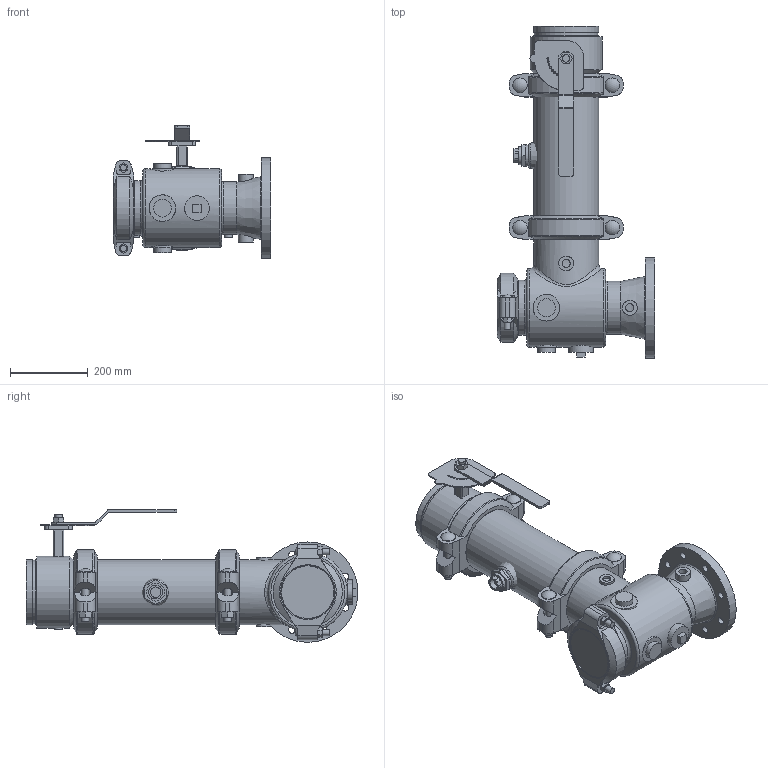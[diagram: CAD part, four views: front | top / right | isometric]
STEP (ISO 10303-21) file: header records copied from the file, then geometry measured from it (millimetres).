
FILE_DESCRIPTION(/* description */ ('VIC SVI PUMP DROP HORZ S/391 (OGSxFLG)','CAx-IF Rec.Pracs.---Representation and Presentation of Product Manufacturing Information (PMI)---4.0---2014-10-13'),/* implementation_level */ '2;1');
FILE_NAME(/* name */ 'C:\Users\kkamble\AppData\Roaming\Autodesk\ApplicationPlugins\Back Up\Victaulic_PN10_Series 391 (OGSxFLG)\Victaulic_PN10_Series 391 (OGSxFLG)_06.0x05.0 (139.7) (150x125).stp',/* time_stamp */ '2020-11-26T23:44:39+05:00',/* author */ ('kkamble'),/* organization */ ('Victaulic'),/* preprocessor_version */ 'ST-DEVELOPER v17.2',/* originating_system */ 'Autodesk Inventor 2019',/* authorisation */ '');
FILE_SCHEMA (('AP242_MANAGED_MODEL_BASED_3D_ENGINEERING_MIM_LF { 1 0 10303 442 1 1 4 }'));
Length unit declared in the file: inch
Products named in the file (9): 391-06.0x05.0 (139.7); 731D-06.0x05.0 (139.7); 731D-06.0x05.0 (139.7)_1; 731D-06.0; 07-05.0; PIPE-06.0; 177N-06.0; 761-06.0; 923-04.0x0.75
Assembly tree (9 placements, depth 3):
  391-06.0x05.0 (139.7)
    731D-06.0x05.0 (139.7)
      731D-06.0x05.0 (139.7)_1
      731D-06.0
      07-05.0
    177N-06.0  x2
    PIPE-06.0
    761-06.0
    923-04.0x0.75
Bounding box: 406.4 x 856.49 x 342.39 mm (x, y, z)
Volume: 11471384.3 mm3; surface area: 1722829.7 mm2
Topology: 8 solids, 11 shells, 532 faces, 1378 edges, 930 vertices
Faces by surface type: plane 298, cylinder 191, cone 19, torus 17, sphere 6, bspline 1
Full cylindrical faces by diameter (mm): 4.826 x10, 8.636 x4, 15.875 x4, 18.009 x8, 19.05 x6, 20.955 x4, 22.86 x1, 25.4 x2, 26.67 x1, 37.694 x4, 38.1 x4, 45.72 x3, 45.974 x2, 55.118 x1, 55.626 x1, 63.5 x1, 104.902 x1, 112.776 x1, 121.412 x1, 127 x1, 134.95 x1, 136.144 x1, 137.033 x2, 141.3 x5, 146.558 x1, 154.051 x2, 155.575 x2, 163.957 x5, 168.275 x13, 185.42 x1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
Entity records: 15681 total; most frequent: CARTESIAN_POINT 3595, DIRECTION 2485, ORIENTED_EDGE 2276, EDGE_CURVE 1138, AXIS2_PLACEMENT_3D 948, VERTEX_POINT 771, LINE 589, VECTOR 589
